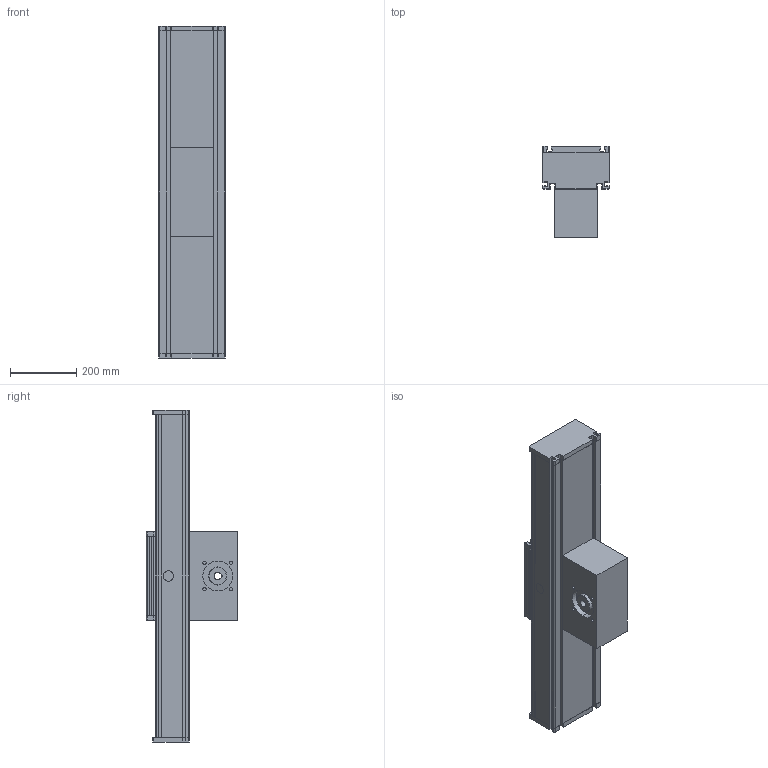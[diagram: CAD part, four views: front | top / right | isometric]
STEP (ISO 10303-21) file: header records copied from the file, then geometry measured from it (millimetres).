
FILE_DESCRIPTION (( 'STEP AP214' ), '1' );
FILE_NAME ('DLZS200.STEP', '2022-06-29T09:04:25', ( '' ), ( '' ), 'SwSTEP 2.0', 'SolidWorks 2020', '' );
FILE_SCHEMA (( 'AUTOMOTIVE_DESIGN' ));
Length unit declared in the file: millimetre
Products named in the file (5): carriage^DLZS200_carriage version 0; DLZS200; timing belt reverse unit^DLZS200_coupling claw pos.2; profile^DLZS200_standard; end plate^DLZS200_0
Assembly tree (5 placements, depth 2):
  DLZS200
    profile^DLZS200_standard
    carriage^DLZS200_carriage version 0
    timing belt reverse unit^DLZS200_coupling claw pos.2
    end plate^DLZS200_0  x2
Bounding box: 200.2 x 275 x 1000 mm (x, y, z)
Volume: 16701930.1 mm3; surface area: 2336229.5 mm2
Topology: 13 solids, 13 shells, 396 faces, 1056 edges, 698 vertices
Faces by surface type: plane 286, cylinder 100, torus 8, cone 2
Entity records: 11986 total; most frequent: CARTESIAN_POINT 1964, ORIENTED_EDGE 1920, DIRECTION 1894, EDGE_CURVE 960, LINE 766, VECTOR 766, VERTEX_POINT 634, AXIS2_PLACEMENT_3D 564
